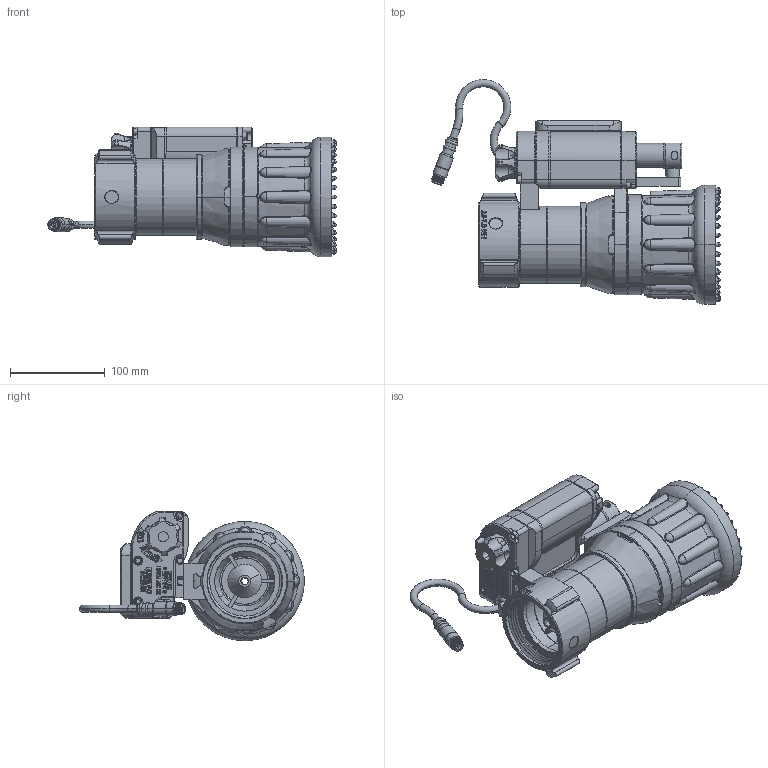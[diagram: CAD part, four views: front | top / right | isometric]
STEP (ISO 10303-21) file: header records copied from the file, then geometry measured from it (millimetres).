
FILE_DESCRIPTION (( 'STEP AP203' ), '1' );
FILE_NAME ('MD-ERP-18A.STEP', '2019-12-17T19:13:39', ( 'Windows User' ), ( '' ), 'SwSTEP 2.0', 'SolidWorks 2017', '' );
FILE_SCHEMA (( 'CONFIG_CONTROL_DESIGN' ));
Length unit declared in the file: inch
Products named in the file (1): MD-ERP-18A
Bounding box: 304.34 x 237.27 x 136.65 mm (x, y, z)
Surface area: 270549.1 mm2 (no closed solid volume)
Topology: 0 solids, 52 shells, 1580 faces, 5344 edges, 3742 vertices
Faces by surface type: cylinder 519, plane 452, bspline 165, cone 159, sphere 158, torus 127
Entity records: 77545 total; most frequent: CARTESIAN_POINT 34296, ORIENTED_EDGE 9175, DIRECTION 8235, EDGE_CURVE 5194, VERTEX_POINT 3670, AXIS2_PLACEMENT_3D 3109, LINE 2017, VECTOR 2017
